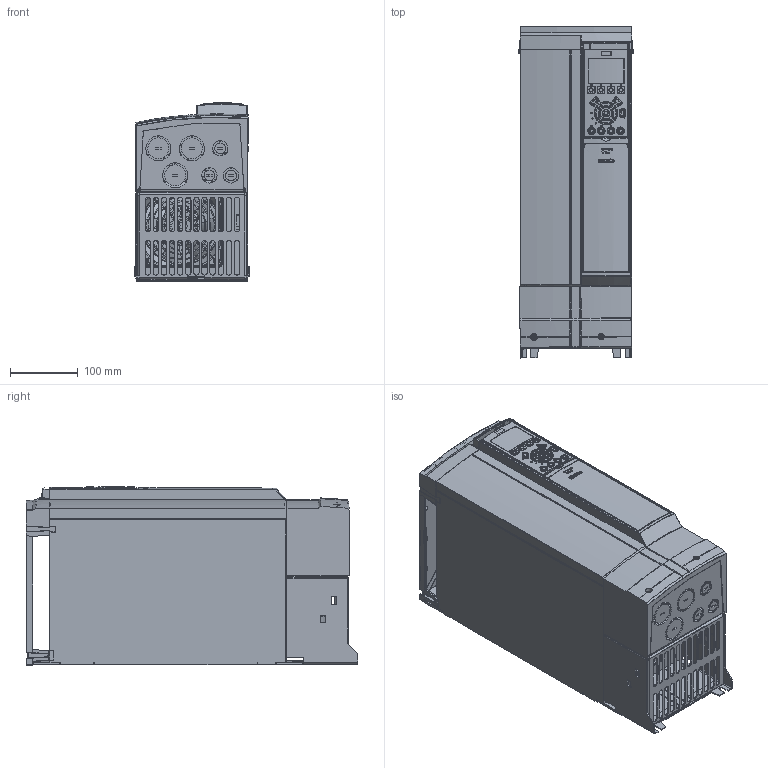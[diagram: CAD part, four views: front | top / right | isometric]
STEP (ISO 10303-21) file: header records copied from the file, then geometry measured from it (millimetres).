
FILE_DESCRIPTION((''),'2;1');
FILE_NAME('DANFOSS-FC100-B3NEMA1-KIT-B-185','2008-07-24T',('Abhilash.Paramesh'),('dan Drives A/S'),'PRO/ENGINEER BY PARAMETRIC TECHNOLOGY CORPORATION, 2007160','PRO/ENGINEER BY PARAMETRIC TECHNOLOGY CORPORATION, 2007160','');
FILE_SCHEMA(('CONFIG_CONTROL_DESIGN'));
Products named in the file (1): DANFOSS-FC100-B3NEMA1-KIT-B-185
Bounding box: 169.82 x 490.92 x 264.1 mm (x, y, z)
Volume: 14414110 mm3; surface area: 925343.6 mm2
Topology: 3 solids, 22 shells, 6868 faces, 17501 edges, 10641 vertices
Faces by surface type: plane 2662, cylinder 2208, bspline 832, torus 589, sphere 342, cone 154, extrusion 81
Entity records: 329242 total; most frequent: CARTESIAN_POINT 97928, ORIENTED_EDGE 34698, DIRECTION 30432, PRESENTATION_STYLE_ASSIGNMENT 19767, STYLED_ITEM 17662, CURVE_STYLE 17429, EDGE_CURVE 17349, AXIS2_PLACEMENT_3D 10842
